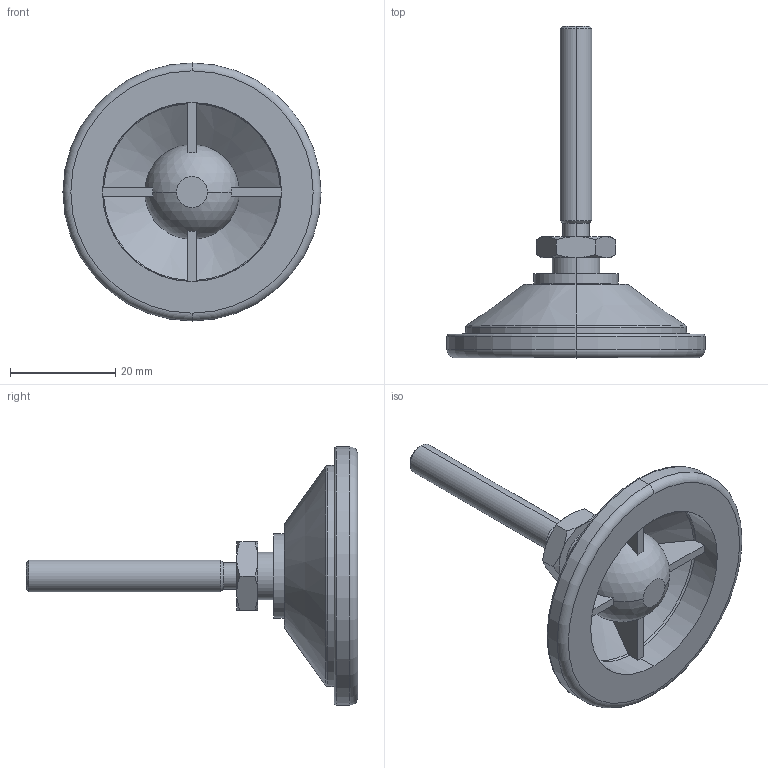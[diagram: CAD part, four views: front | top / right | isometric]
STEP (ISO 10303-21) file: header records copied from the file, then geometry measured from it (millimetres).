
FILE_DESCRIPTION (( 'STEP AP203' ), '1' );
FILE_NAME ('3472.W063.step', '2009-10-21T16:57:24', ( 'Wixroyd' ), ( 'Wixroyd' ), 'SwSTEP 2.0', 'SolidWorks 2009', '' );
FILE_SCHEMA (( 'CONFIG_CONTROL_DESIGN' ));
Length unit declared in the file: millimetre
Products named in the file (3): 3472.W063; Part2_3472W063; Part1_3472W063
Assembly tree (2 placements, depth 2):
  3472.W063
    Part2_3472W063
    Part1_3472W063
Bounding box: 49 x 63 x 49 mm (x, y, z)
Volume: 12597.5 mm3; surface area: 8739.7 mm2
Topology: 2 solids, 2 shells, 94 faces, 229 edges, 143 vertices
Faces by surface type: plane 38, cone 22, cylinder 16, torus 12, sphere 6
Entity records: 3159 total; most frequent: CARTESIAN_POINT 659, DIRECTION 508, ORIENTED_EDGE 442, AXIS2_PLACEMENT_3D 228, EDGE_CURVE 221, VERTEX_POINT 139, CIRCLE 129, EDGE_LOOP 102
